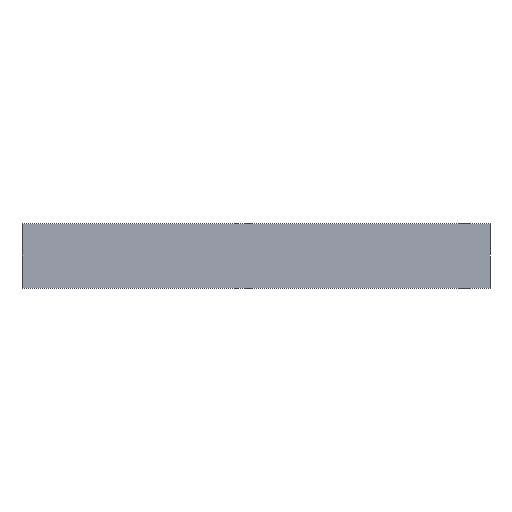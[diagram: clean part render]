
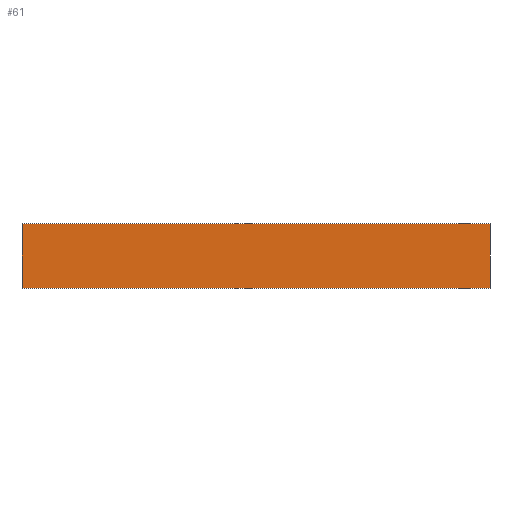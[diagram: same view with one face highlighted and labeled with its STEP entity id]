
A CAD part, front view. The second image highlights one B-rep face of the part: STEP entity #61.
In plain terms, the highlighted planar face has unit normal (0, -1, 0).
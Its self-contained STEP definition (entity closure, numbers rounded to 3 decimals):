
#22=CARTESIAN_POINT('',(2569.0,298.822,30.0));
#23=DIRECTION('',(0.0,-1.0,0.0));
#24=DIRECTION('',(1.0,0.0,0.0));
#25=AXIS2_PLACEMENT_3D('',#22,#23,#24);
#26=PLANE('',#25);
#27=CARTESIAN_POINT('',(2569.0,298.822,30.0));
#28=VERTEX_POINT('',#27);
#29=CARTESIAN_POINT('',(3300.0,298.822,30.0));
#30=VERTEX_POINT('',#29);
#31=CARTESIAN_POINT('',(2569.0,298.822,30.0));
#32=DIRECTION('',(1.0,0.0,0.0));
#33=VECTOR('',#32,1.);
#34=LINE('',#31,#33);
#35=EDGE_CURVE('',#28,#30,#34,.T.);
#36=ORIENTED_EDGE('',*,*,#35,.T.);
#37=CARTESIAN_POINT('',(3300.0,298.822,130.0));
#38=VERTEX_POINT('',#37);
#39=CARTESIAN_POINT('',(3300.0,298.822,30.0));
#40=DIRECTION('',(0.0,0.0,1.0));
#41=VECTOR('',#40,1.);
#42=LINE('',#39,#41);
#43=EDGE_CURVE('',#30,#38,#42,.T.);
#44=ORIENTED_EDGE('',*,*,#43,.T.);
#45=CARTESIAN_POINT('',(2569.0,298.822,130.0));
#46=VERTEX_POINT('',#45);
#47=CARTESIAN_POINT('',(2569.0,298.822,130.0));
#48=DIRECTION('',(1.0,0.0,0.0));
#49=VECTOR('',#48,1.);
#50=LINE('',#47,#49);
#51=EDGE_CURVE('',#46,#38,#50,.T.);
#52=ORIENTED_EDGE('',*,*,#51,.F.);
#53=CARTESIAN_POINT('',(2569.0,298.822,30.0));
#54=DIRECTION('',(0.0,0.0,1.0));
#55=VECTOR('',#54,1.);
#56=LINE('',#53,#55);
#57=EDGE_CURVE('',#28,#46,#56,.T.);
#58=ORIENTED_EDGE('',*,*,#57,.F.);
#59=EDGE_LOOP('',(#36,#44,#52,#58));
#60=FACE_BOUND('',#59,.T.);
#61=ADVANCED_FACE('',(#60),#26,.T.);
